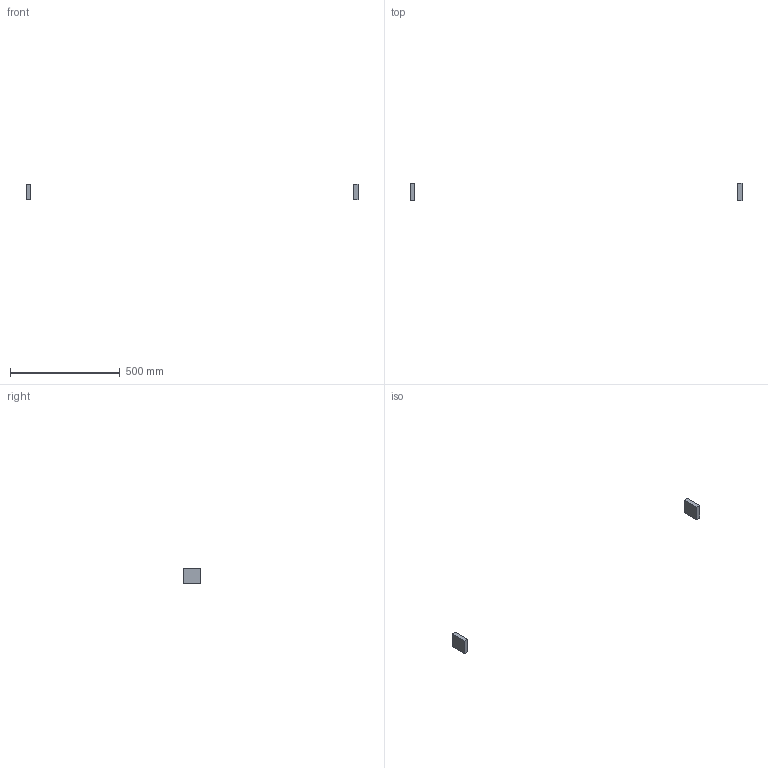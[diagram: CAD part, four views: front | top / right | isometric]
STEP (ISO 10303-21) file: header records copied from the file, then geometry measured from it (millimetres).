
FILE_DESCRIPTION(/* description */ (''),/* implementation_level */ '2;1');
FILE_NAME(/* name */ 'Y-CA65~1',/* time_stamp */ '2014-02-14T19:37:31+01:00',/* author */ (''),/* organization */ (''),/* preprocessor_version */ 'ST-DEVELOPER v14',/* originating_system */ '',/* authorisation */ '');
FILE_SCHEMA (('AUTOMOTIVE_DESIGN'));
Length unit declared in the file: millimetre
Products named in the file (1): Document
Bounding box: 1510 x 80 x 70 mm (x, y, z)
Volume: 224000 mm3; surface area: 34400 mm2
Topology: 2 solids, 2 shells, 12 faces, 24 edges, 16 vertices
Faces by surface type: plane 12
Entity records: 571 total; most frequent: CARTESIAN_POINT 174, B_SPLINE_CURVE_WITH_KNOTS 72, ORIENTED_EDGE 48, PCURVE 48, DEFINITIONAL_REPRESENTATION 48, SURFACE_CURVE 24, EDGE_CURVE 24, VERTEX_POINT 16
